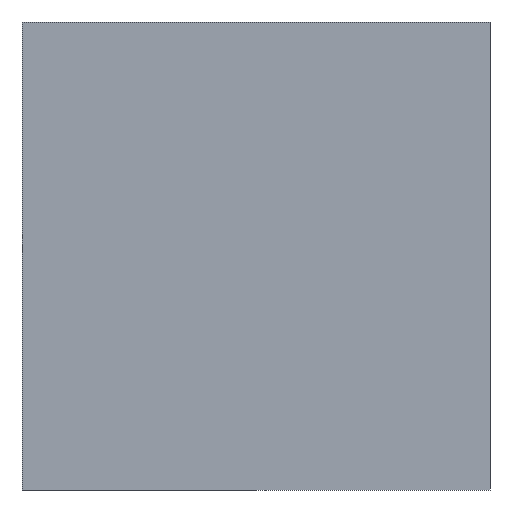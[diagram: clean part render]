
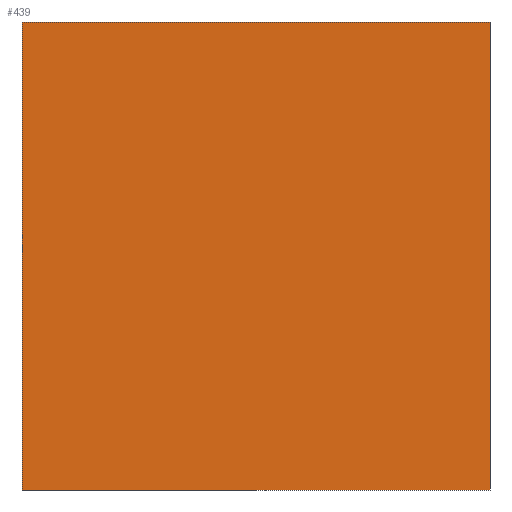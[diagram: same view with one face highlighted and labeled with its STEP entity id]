
A CAD part, left-side view. The second image highlights one B-rep face of the part: STEP entity #439.
In plain terms, the highlighted planar face has unit normal (-1, 0, 0).
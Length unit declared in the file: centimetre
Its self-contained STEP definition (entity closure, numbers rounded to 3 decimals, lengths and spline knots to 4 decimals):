
#1 = LINE ( 'NONE', #108, #100 ) ;
#13 = DIRECTION ( 'NONE',  ( 0., -1., 0. ) ) ;
#57 = CARTESIAN_POINT ( 'NONE',  ( 0., 1000., 1000. ) ) ;
#72 = EDGE_LOOP ( 'NONE', ( #115, #406, #87, #659 ) ) ;
#87 = ORIENTED_EDGE ( 'NONE', *, *, #553, .F. ) ;
#96 = PLANE ( 'NONE',  #420 ) ;
#100 = VECTOR ( 'NONE', #324, 100. ) ;
#108 = CARTESIAN_POINT ( 'NONE',  ( 0., 0., 1000. ) ) ;
#115 = ORIENTED_EDGE ( 'NONE', *, *, #201, .T. ) ;
#130 = VERTEX_POINT ( 'NONE', #205 ) ;
#140 = LINE ( 'NONE', #423, #618 ) ;
#152 = DIRECTION ( 'NONE',  ( 1., 0., 0. ) ) ;
#172 = VERTEX_POINT ( 'NONE', #202 ) ;
#191 = VERTEX_POINT ( 'NONE', #363 ) ;
#200 = CARTESIAN_POINT ( 'NONE',  ( 0., 1000., 1000. ) ) ;
#201 = EDGE_CURVE ( 'NONE', #130, #191, #474, .T. ) ;
#202 = CARTESIAN_POINT ( 'NONE',  ( 0., 1000., 1000. ) ) ;
#205 = CARTESIAN_POINT ( 'NONE',  ( 0., 1000., 0. ) ) ;
#227 = LINE ( 'NONE', #57, #642 ) ;
#250 = DIRECTION ( 'NONE',  ( 0., 0., -1. ) ) ;
#324 = DIRECTION ( 'NONE',  ( 0., 0., -1. ) ) ;
#335 = EDGE_CURVE ( 'NONE', #394, #191, #1, .T. ) ;
#360 = CARTESIAN_POINT ( 'NONE',  ( 0., 1000., 0. ) ) ;
#362 = CARTESIAN_POINT ( 'NONE',  ( 0., 0., 1000. ) ) ;
#363 = CARTESIAN_POINT ( 'NONE',  ( 0., 0., 0. ) ) ;
#394 = VERTEX_POINT ( 'NONE', #362 ) ;
#406 = ORIENTED_EDGE ( 'NONE', *, *, #335, .F. ) ;
#410 = VECTOR ( 'NONE', #635, 100. ) ;
#412 = EDGE_CURVE ( 'NONE', #172, #130, #140, .T. ) ;
#420 = AXIS2_PLACEMENT_3D ( 'NONE', #200, #152, #250 ) ;
#423 = CARTESIAN_POINT ( 'NONE',  ( 0., 1000., 1000. ) ) ;
#439 = ADVANCED_FACE ( 'NONE', ( #532 ), #96, .F. ) ;
#474 = LINE ( 'NONE', #360, #410 ) ;
#532 = FACE_OUTER_BOUND ( 'NONE', #72, .T. ) ;
#553 = EDGE_CURVE ( 'NONE', #172, #394, #227, .T. ) ;
#585 = DIRECTION ( 'NONE',  ( 0., 0., -1. ) ) ;
#618 = VECTOR ( 'NONE', #585, 100. ) ;
#635 = DIRECTION ( 'NONE',  ( 0., -1., 0. ) ) ;
#642 = VECTOR ( 'NONE', #13, 100. ) ;
#659 = ORIENTED_EDGE ( 'NONE', *, *, #412, .T. ) ;
